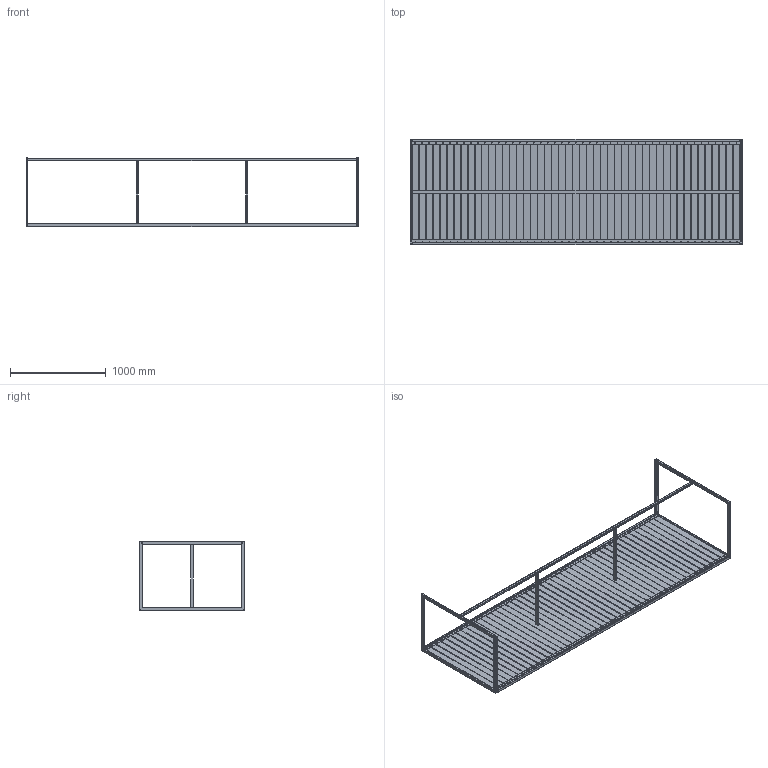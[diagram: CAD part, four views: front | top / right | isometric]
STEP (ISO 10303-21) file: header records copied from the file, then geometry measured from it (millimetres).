
FILE_DESCRIPTION(/* description */ (''),/* implementation_level */ '2;1');
FILE_NAME(/* name */ 'Garden Bistro Table 10.stp',/* time_stamp */ '2023-04-04T18:35:40+02:00',/* author */ ('TorbjörnMalm'),/* organization */ (''),/* preprocessor_version */ 'ST-DEVELOPER v19.2',/* originating_system */ 'Autodesk Inventor 2023',/* authorisation */ '');
FILE_SCHEMA (('AUTOMOTIVE_DESIGN { 1 0 10303 214 3 1 1 }'));
Length unit declared in the file: millimetre
Products named in the file (67): Garden Bistro Table 10; Garden Bistro Table 101; Garden Bistro Table 102; Garden Bistro Table 103; Garden Bistro Table 104; Garden Bistro Table 105; Garden Bistro Table 106; Garden Bistro Table 107; Garden Bistro Table 108; Garden Bistro Table 109; Garden Bistro Table 1010; Garden Bistro Table 1011; Garden Bistro Table 1012; Garden Bistro Table 1013; Garden Bistro Table 1014; Garden Bistro Table 1015; Garden Bistro Table 1016; Garden Bistro Table 1017; Garden Bistro Table 1018; Garden Bistro Table 1019; Garden Bistro Table 1020; Garden Bistro Table 1021; Garden Bistro Table 1022; Garden Bistro Table 1023; Garden Bistro Table 1024; Garden Bistro Table 1025; Garden Bistro Table 1026; Garden Bistro Table 1027; Garden Bistro Table 1028; Garden Bistro Table 1029; Garden Bistro Table 1030; Garden Bistro Table 1031; Garden Bistro Table 1032; Garden Bistro Table 1033; Garden Bistro Table 1034; Garden Bistro Table 1035; Garden Bistro Table 1036; Garden Bistro Table 1037; Garden Bistro Table 1038; Garden Bistro Table 1039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
Assembly tree (66 placements, depth 2):
  Garden Bistro Table 10
    Garden Bistro Table 101
    Garden Bistro Table 102
    Garden Bistro Table 103
    Garden Bistro Table 104
    Garden Bistro Table 105
    Garden Bistro Table 106
    Garden Bistro Table 107
    Garden Bistro Table 108
    Garden Bistro Table 109
    Garden Bistro Table 1010
    Garden Bistro Table 1011
    Garden Bistro Table 1012
    Garden Bistro Table 1013
    Garden Bistro Table 1014
    Garden Bistro Table 1015
    Garden Bistro Table 1016
    Garden Bistro Table 1017
    Garden Bistro Table 1018
    Garden Bistro Table 1019
    Garden Bistro Table 1020
    Garden Bistro Table 1021
    Garden Bistro Table 1022
    Garden Bistro Table 1023
    Garden Bistro Table 1024
    Garden Bistro Table 1025
    Garden Bistro Table 1026
    Garden Bistro Table 1027
    Garden Bistro Table 1028
    Garden Bistro Table 1029
    Garden Bistro Table 1030
    Garden Bistro Table 1031
    Garden Bistro Table 1032
    Garden Bistro Table 1033
    Garden Bistro Table 1034
    Garden Bistro Table 1035
    Garden Bistro Table 1036
    Garden Bistro Table 1037
    Garden Bistro Table 1038
    Garden Bistro Table 1039
    Garden Bistro Table 1040
    Garden Bistro Table 1041
    Garden Bistro Table 1042
    Garden Bistro Table 1043
    Garden Bistro Table 1044
    Garden Bistro Table 1045
    Garden Bistro Table 1046
    Garden Bistro Table 1047
    Garden Bistro Table 1048
    Garden Bistro Table 1049
    Garden Bistro Table 1050
    Garden Bistro Table 1051
    Garden Bistro Table 1052
    Garden Bistro Table 1053
    Garden Bistro Table 1054
    Garden Bistro Table 1055
    Garden Bistro Table 1056
    Garden Bistro Table 1057
    Garden Bistro Table 1058
    Garden Bistro Table 1059
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Bounding box: 3468 x 1100 x 724 mm (x, y, z)
Volume: 80791280.2 mm3; surface area: 12858333.4 mm2
Topology: 66 solids, 66 shells, 1316 faces, 3172 edges, 2104 vertices
Faces by surface type: plane 766, cylinder 534, bspline 16
Full cylindrical faces by diameter (mm): 4 x94, 7 x94
Entity records: 42132 total; most frequent: DIRECTION 7122, CARTESIAN_POINT 6853, ORIENTED_EDGE 6344, EDGE_CURVE 3172, AXIS2_PLACEMENT_3D 2517, VERTEX_POINT 2104, LINE 2088, VECTOR 2088
